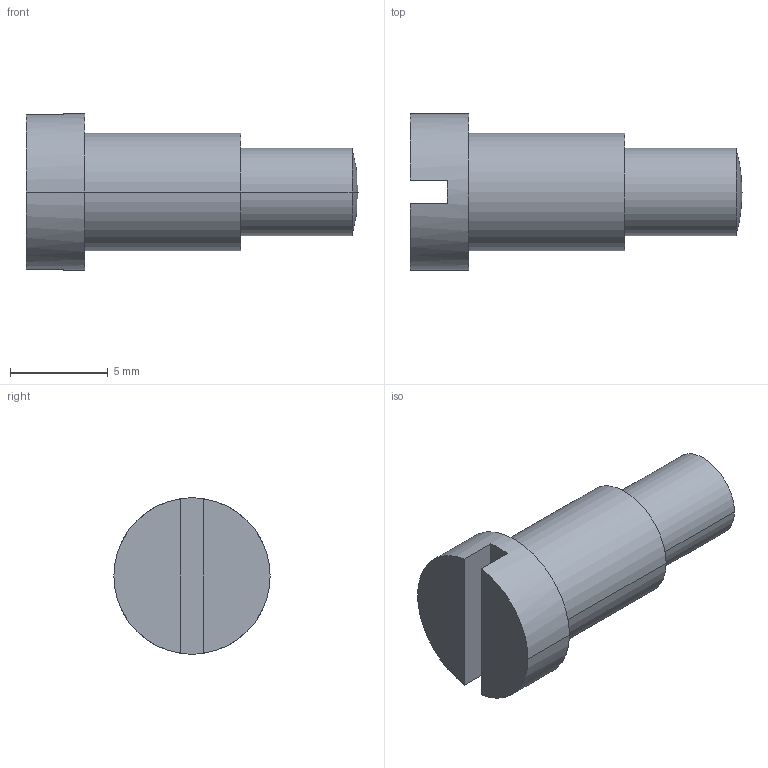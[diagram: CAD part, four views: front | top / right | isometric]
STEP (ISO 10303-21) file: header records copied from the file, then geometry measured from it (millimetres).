
FILE_DESCRIPTION((''),'2;1');
FILE_NAME('FLACHKOPFSCHRAUBE_DIN922_M6X8X6','2022-06-13T16:19:46',('H041970'),(''),'CREO PARAMETRIC BY PTC INC, 2021284','CREO PARAMETRIC BY PTC INC, 2021284','');
FILE_SCHEMA(('CONFIG_CONTROL_DESIGN'));
Length unit declared in the file: millimetre
Products named in the file (1): FLACHKOPFSCHRAUBE_DIN922_M6X8X6
Bounding box: 17 x 8 x 8 mm (x, y, z)
Volume: 451.8 mm3; surface area: 568.7 mm2
Topology: 1 solids, 2 shells, 17 faces, 43 edges, 31 vertices
Faces by surface type: cylinder 8, plane 7, sphere 2
Entity records: 548 total; most frequent: DIRECTION 99, CARTESIAN_POINT 84, ORIENTED_EDGE 72, AXIS2_PLACEMENT_3D 40, EDGE_CURVE 38, VERTEX_POINT 25, CIRCLE 22, VECTOR 19
